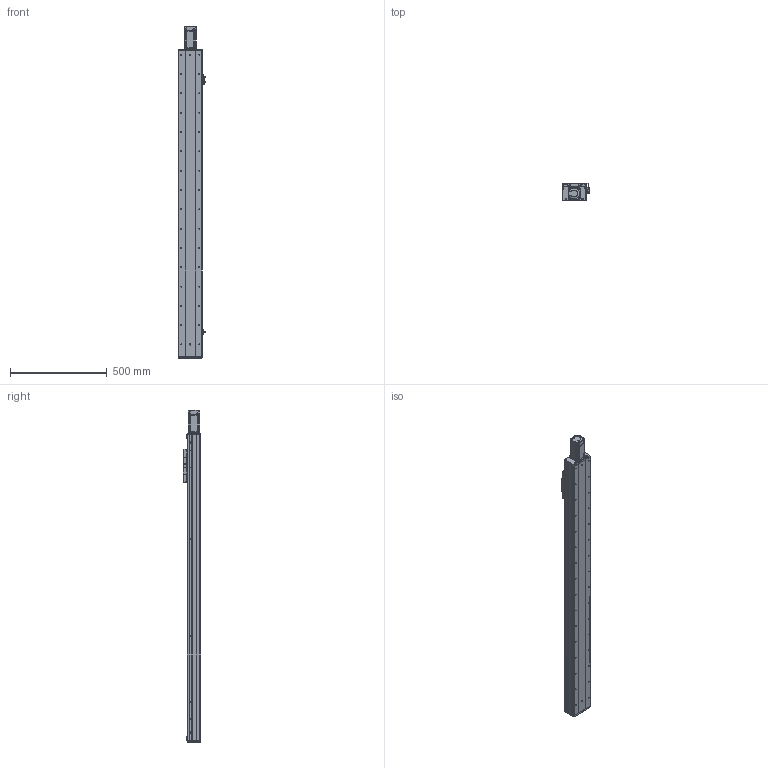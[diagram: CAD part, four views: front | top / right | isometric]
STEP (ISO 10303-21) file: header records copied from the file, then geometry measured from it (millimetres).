
FILE_DESCRIPTION (( 'STEP AP203' ), '1' );
FILE_NAME ('RY120F-L2010-1000-MK.SLDASM_1300.step', '2021-03-02T06:06:15', ( '盈信电脑' ), ( '东莞市道滘镇水果街19号' ), 'SwSTEP 2.0', 'SolidWorks 2012', '' );
FILE_SCHEMA (( 'CONFIG_CONTROL_DESIGN' ));
Length unit declared in the file: millimetre
Products named in the file (23): RY120F-蚥薯蝶幗謫郪磁; RY120F-L2010-1000-MK.SLDASM_1300; 蚥薯蝶幗謫; 粣杶; MF95ZZ; RY120F-钢带滚轮轴(优力胶); RY80俋离覜茼え; 672嫖萇羲壽假蚾釱; 滅袉蝶18-17; FY120F詩湍揤踡輸; 覜茼ん672; RY120F不锈钢防尘盖(优力胶）; RY120F綴裔啣(臏璃ㄘ; 滅袉蝶18-24; RY120F眻蟀ヶ裔啣; 侂狟400W侜督萇儂; 15; 絳寢賑輸EGH15; RY120F-臏賑輸 20蹟譫; RY120F滅鳥詩湍-1000-MK_1300; RY120F-铝滑块上座（优力胶）; RY120F-1000-倰第裔啣_1300; RY120F-1000-倰第菁釱_1300
Assembly tree (34 placements, depth 3):
  RY120F-L2010-1000-MK.SLDASM_1300
    RY120F-1000-倰第菁釱_1300
    RY120F-1000-倰第裔啣_1300  x2
    RY120F滅鳥詩湍-1000-MK_1300
    RY120F-臏賑輸 20蹟譫
    絳寢賑輸EGH15  x2
    RY120F-铝滑块上座（优力胶）
    侂狟400W侜督萇儂
      15
    RY120F眻蟀ヶ裔啣
    RY120F不锈钢防尘盖(优力胶）
    滅袉蝶18-24
    RY120F綴裔啣(臏璃ㄘ
    覜茼ん672  x3
    672嫖萇羲壽假蚾釱  x2
    RY80俋离覜茼え
    FY120F詩湍揤踡輸  x2
    滅袉蝶18-17  x2
    RY120F-蚥薯蝶幗謫郪磁
      RY120F-钢带滚轮轴(优力胶)
      蚥薯蝶幗謫  x2
      MF95ZZ  x4
      粣杶  x2
Bounding box: 140.35 x 89 x 1718.5 mm (x, y, z)
Volume: 4983512.2 mm3; surface area: 1824763.7 mm2
Topology: 32 solids, 32 shells, 2341 faces, 6221 edges, 3973 vertices
Faces by surface type: cylinder 1100, plane 988, cone 235, bspline 18
Entity records: 62632 total; most frequent: CARTESIAN_POINT 11284, DIRECTION 10567, ORIENTED_EDGE 9794, EDGE_CURVE 4897, AXIS2_PLACEMENT_3D 3856, VERTEX_POINT 3205, LINE 2855, VECTOR 2855
